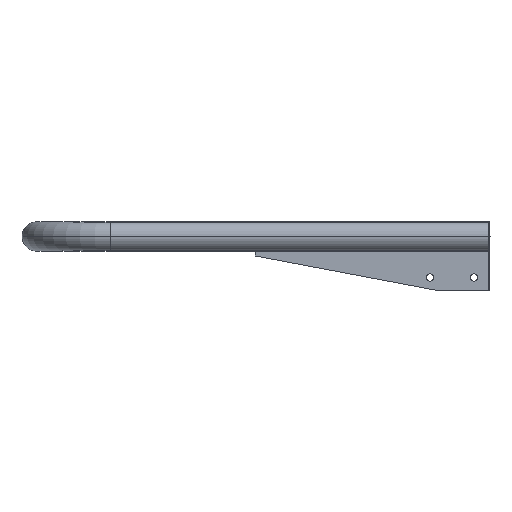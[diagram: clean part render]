
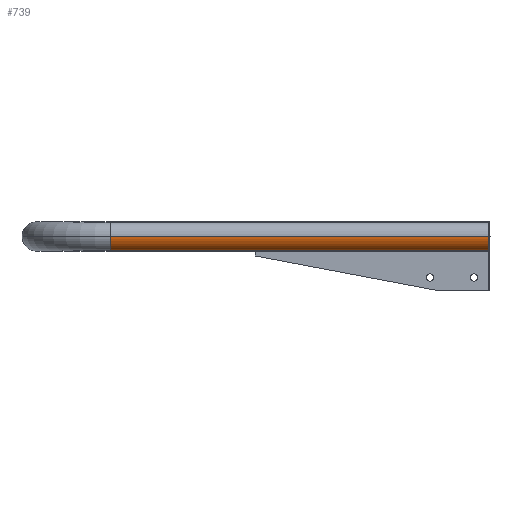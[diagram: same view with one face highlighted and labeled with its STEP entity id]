
A CAD part, left-side view. The second image highlights one B-rep face of the part: STEP entity #739.
In plain terms, the highlighted cylindrical face has radius 19.05 mm (diameter 38.1 mm), a partial arc.
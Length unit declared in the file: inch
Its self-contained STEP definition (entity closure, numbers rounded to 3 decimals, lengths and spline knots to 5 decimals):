
#42 = DIRECTION ( 'NONE',  ( 0.047, 0.999, 0. ) ) ;
#175 = DIRECTION ( 'NONE',  ( 0.047, 0.999, 0. ) ) ;
#203 = CARTESIAN_POINT ( 'NONE',  ( -29.99835, -23.9121, 0. ) ) ;
#228 = EDGE_LOOP ( 'NONE', ( #1375, #1478, #377, #1090 ) ) ;
#231 = AXIS2_PLACEMENT_3D ( 'NONE', #1150, #1045, #1486 ) ;
#331 = CARTESIAN_POINT ( 'NONE',  ( -28.5, -23.98241, 0. ) ) ;
#377 = ORIENTED_EDGE ( 'NONE', *, *, #946, .T. ) ;
#400 = VECTOR ( 'NONE', #426, 39.37008 ) ;
#426 = DIRECTION ( 'NONE',  ( 0.047, 0.999, 0. ) ) ;
#449 = VERTEX_POINT ( 'NONE', #727 ) ;
#490 = VERTEX_POINT ( 'NONE', #526 ) ;
#493 = DIRECTION ( 'NONE',  ( -0.999, 0.047, 0. ) ) ;
#495 = AXIS2_PLACEMENT_3D ( 'NONE', #961, #42, #493 ) ;
#526 = CARTESIAN_POINT ( 'NONE',  ( -29.08869, -4.52734, 0. ) ) ;
#548 = DIRECTION ( 'NONE',  ( -0.047, -0.999, 0. ) ) ;
#572 = VECTOR ( 'NONE', #175, 39.37008 ) ;
#727 = CARTESIAN_POINT ( 'NONE',  ( -28.5, -23.98241, 0. ) ) ;
#739 = ADVANCED_FACE ( 'NONE', ( #993 ), #1346, .T. ) ;
#885 = VERTEX_POINT ( 'NONE', #1268 ) ;
#892 = EDGE_CURVE ( 'NONE', #885, #449, #1277, .T. ) ;
#894 = LINE ( 'NONE', #331, #572 ) ;
#907 = CARTESIAN_POINT ( 'NONE',  ( -29.24918, -23.94726, 0. ) ) ;
#946 = EDGE_CURVE ( 'NONE', #885, #490, #1414, .T. ) ;
#961 = CARTESIAN_POINT ( 'NONE',  ( -29.24918, -23.94726, 0. ) ) ;
#993 = FACE_OUTER_BOUND ( 'NONE', #228, .T. ) ;
#1045 = DIRECTION ( 'NONE',  ( 0.047, 0.999, 0. ) ) ;
#1050 = CIRCLE ( 'NONE', #231, 0.75 ) ;
#1090 = ORIENTED_EDGE ( 'NONE', *, *, #1293, .F. ) ;
#1150 = CARTESIAN_POINT ( 'NONE',  ( -28.33952, -4.5625, 0. ) ) ;
#1214 = AXIS2_PLACEMENT_3D ( 'NONE', #907, #548, #1265 ) ;
#1265 = DIRECTION ( 'NONE',  ( 0.999, -0.047, 0. ) ) ;
#1268 = CARTESIAN_POINT ( 'NONE',  ( -29.99835, -23.9121, 0. ) ) ;
#1277 = CIRCLE ( 'NONE', #1214, 0.75 ) ;
#1293 = EDGE_CURVE ( 'NONE', #1514, #490, #1050, .T. ) ;
#1300 = EDGE_CURVE ( 'NONE', #449, #1514, #894, .T. ) ;
#1346 = CYLINDRICAL_SURFACE ( 'NONE', #495, 0.75 ) ;
#1375 = ORIENTED_EDGE ( 'NONE', *, *, #1300, .F. ) ;
#1414 = LINE ( 'NONE', #203, #400 ) ;
#1450 = CARTESIAN_POINT ( 'NONE',  ( -27.59034, -4.59766, 0. ) ) ;
#1478 = ORIENTED_EDGE ( 'NONE', *, *, #892, .F. ) ;
#1486 = DIRECTION ( 'NONE',  ( -0.999, 0.047, 0. ) ) ;
#1514 = VERTEX_POINT ( 'NONE', #1450 ) ;
